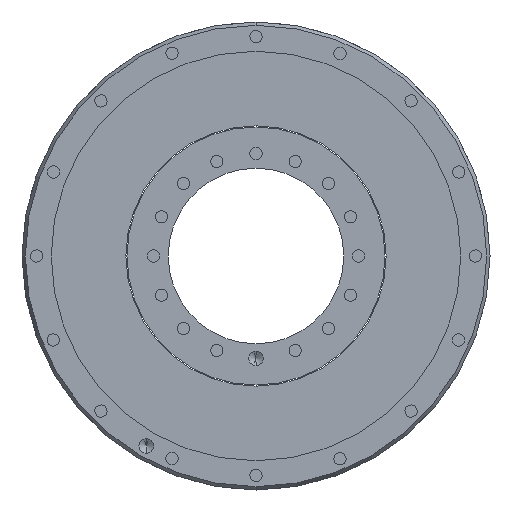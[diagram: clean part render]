
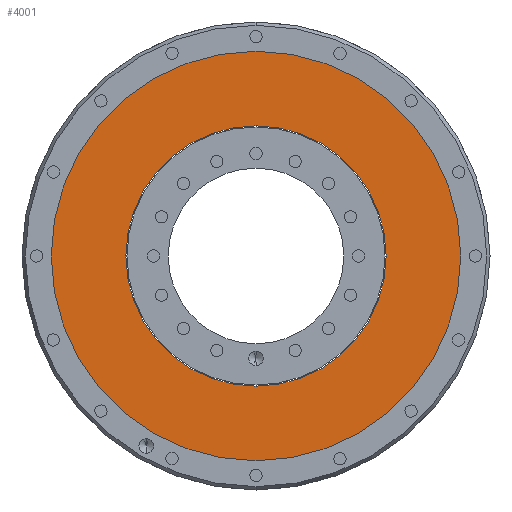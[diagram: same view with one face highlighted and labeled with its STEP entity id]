
A CAD part, front view. The second image highlights one B-rep face of the part: STEP entity #4001.
In plain terms, the highlighted planar face has unit normal (0, -1, 0).
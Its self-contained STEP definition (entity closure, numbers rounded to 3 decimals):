
#82 = CARTESIAN_POINT ( 'NONE',  ( 0., 1., 0. ) ) ;
#170 = CARTESIAN_POINT ( 'NONE',  ( 0., 1., 70. ) ) ;
#278 = EDGE_CURVE ( 'NONE', #2580, #4776, #3481, .T. ) ;
#416 = ORIENTED_EDGE ( 'NONE', *, *, #663, .T. ) ;
#575 = ORIENTED_EDGE ( 'NONE', *, *, #5791, .F. ) ;
#633 = DIRECTION ( 'NONE',  ( 0., -1., 0. ) ) ;
#663 = EDGE_CURVE ( 'NONE', #4776, #2580, #3913, .T. ) ;
#735 = DIRECTION ( 'NONE',  ( 0., 0., -1. ) ) ;
#767 = DIRECTION ( 'NONE',  ( 0., -1., 0. ) ) ;
#860 = AXIS2_PLACEMENT_3D ( 'NONE', #82, #633, #5536 ) ;
#1592 = CARTESIAN_POINT ( 'NONE',  ( 0., 1., -70. ) ) ;
#1712 = CARTESIAN_POINT ( 'NONE',  ( 44.5, 1., 0. ) ) ;
#1774 = CIRCLE ( 'NONE', #2605, 44.5 ) ;
#1888 = EDGE_LOOP ( 'NONE', ( #416, #8950 ) ) ;
#1951 = DIRECTION ( 'NONE',  ( 0., -1., 0. ) ) ;
#2069 = DIRECTION ( 'NONE',  ( 0., 0., -1. ) ) ;
#2580 = VERTEX_POINT ( 'NONE', #170 ) ;
#2605 = AXIS2_PLACEMENT_3D ( 'NONE', #4967, #767, #735 ) ;
#2893 = CARTESIAN_POINT ( 'NONE',  ( 0., 1., -44.5 ) ) ;
#2970 = CARTESIAN_POINT ( 'NONE',  ( 0., 1., 44.5 ) ) ;
#3481 = CIRCLE ( 'NONE', #5290, 70. ) ;
#3567 = EDGE_CURVE ( 'NONE', #5306, #8918, #1774, .T. ) ;
#3733 = FACE_BOUND ( 'NONE', #4220, .T. ) ;
#3821 = ORIENTED_EDGE ( 'NONE', *, *, #3567, .F. ) ;
#3874 = DIRECTION ( 'NONE',  ( 0., -1., 0. ) ) ;
#3913 = CIRCLE ( 'NONE', #7889, 70. ) ;
#4001 = ADVANCED_FACE ( 'NONE', ( #7017, #3733 ), #4570, .T. ) ;
#4220 = EDGE_LOOP ( 'NONE', ( #3821, #575 ) ) ;
#4570 = PLANE ( 'NONE',  #6530 ) ;
#4776 = VERTEX_POINT ( 'NONE', #1592 ) ;
#4967 = CARTESIAN_POINT ( 'NONE',  ( 0., 1., 0. ) ) ;
#5290 = AXIS2_PLACEMENT_3D ( 'NONE', #8318, #1951, #2069 ) ;
#5306 = VERTEX_POINT ( 'NONE', #2893 ) ;
#5536 = DIRECTION ( 'NONE',  ( 0., 0., -1. ) ) ;
#5791 = EDGE_CURVE ( 'NONE', #8918, #5306, #8083, .T. ) ;
#6530 = AXIS2_PLACEMENT_3D ( 'NONE', #1712, #8792, #8214 ) ;
#7017 = FACE_OUTER_BOUND ( 'NONE', #1888, .T. ) ;
#7283 = DIRECTION ( 'NONE',  ( 0., 0., -1. ) ) ;
#7889 = AXIS2_PLACEMENT_3D ( 'NONE', #8771, #3874, #7283 ) ;
#8083 = CIRCLE ( 'NONE', #860, 44.5 ) ;
#8214 = DIRECTION ( 'NONE',  ( 0., 0., -1. ) ) ;
#8318 = CARTESIAN_POINT ( 'NONE',  ( 0., 1., 0. ) ) ;
#8771 = CARTESIAN_POINT ( 'NONE',  ( 0., 1., 0. ) ) ;
#8792 = DIRECTION ( 'NONE',  ( 0., -1., 0. ) ) ;
#8918 = VERTEX_POINT ( 'NONE', #2970 ) ;
#8950 = ORIENTED_EDGE ( 'NONE', *, *, #278, .T. ) ;
